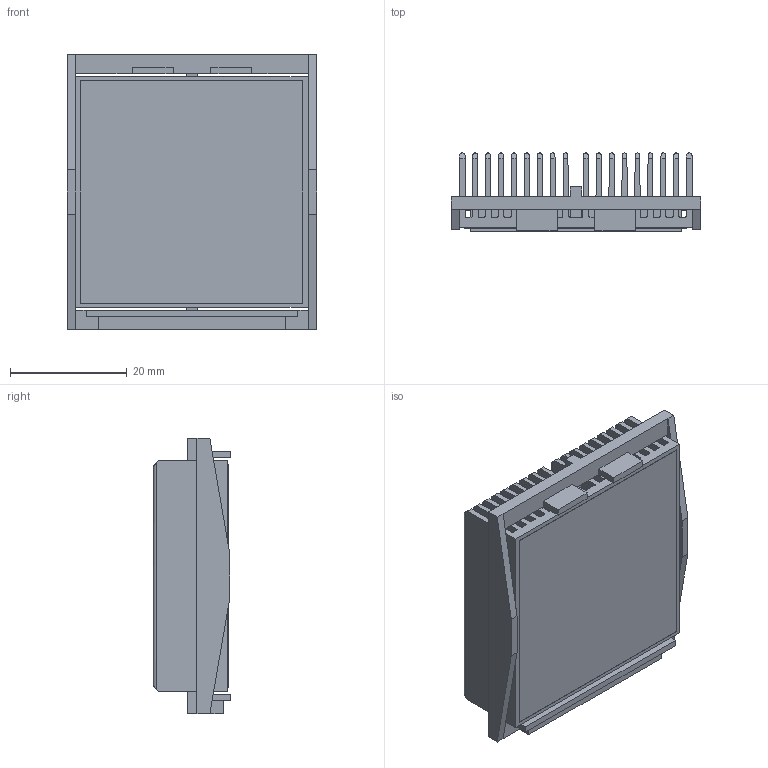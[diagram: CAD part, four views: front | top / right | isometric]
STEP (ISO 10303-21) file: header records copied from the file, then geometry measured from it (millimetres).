
FILE_DESCRIPTION (( 'STEP AP214' ), '1' );
FILE_NAME ('INL40001-13-1.7O.STEP', '2023-03-01T17:13:13', ( '' ), ( '' ), 'SwSTEP 2.0', 'SolidWorks 2020', '' );
FILE_SCHEMA (( 'AUTOMOTIVE_DESIGN' ));
Length unit declared in the file: millimetre
Products named in the file (1): INL40001-13-1.7O
Bounding box: 42.7 x 13.3 x 47.1 mm (x, y, z)
Volume: 11496 mm3; surface area: 24480.6 mm2
Topology: 3 solids, 3 shells, 198 faces, 578 edges, 384 vertices
Faces by surface type: plane 146, cylinder 52
Entity records: 8712 total; most frequent: CARTESIAN_POINT 1269, ORIENTED_EDGE 1156, DIRECTION 1008, EDGE_CURVE 578, VECTOR 474, LINE 474, VERTEX_POINT 384, AXIS2_PLACEMENT_3D 267
